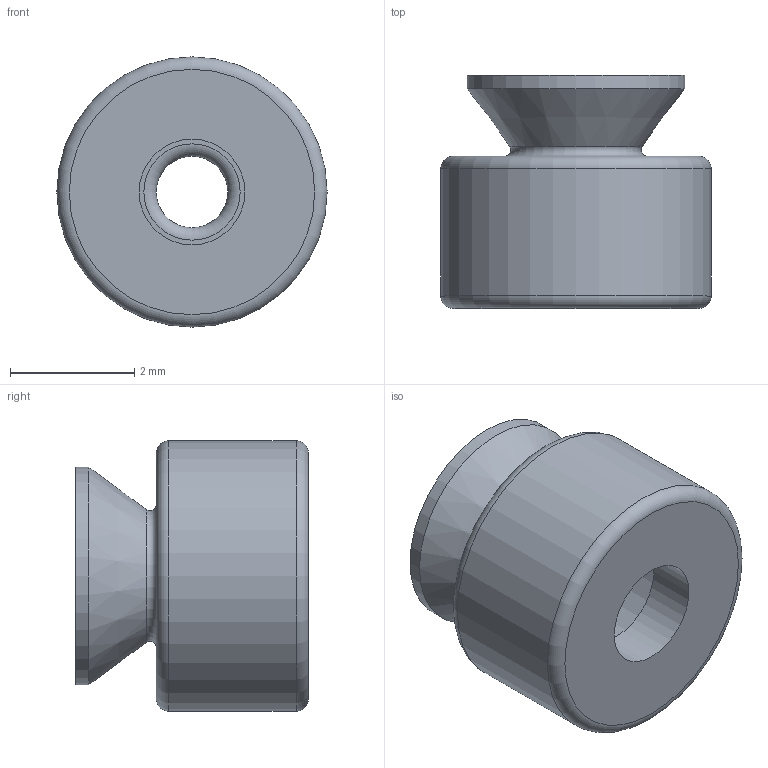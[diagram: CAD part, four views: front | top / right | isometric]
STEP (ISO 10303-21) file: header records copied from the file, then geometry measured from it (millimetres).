
FILE_DESCRIPTION (( 'STEP AP214' ), '1' );
FILE_NAME ('10F.003.001.01.STEP', '2025-10-16T17:01:26', ( '' ), ( '' ), 'SwSTEP 2.0', 'SolidWorks 2025', '' );
FILE_SCHEMA (( 'AUTOMOTIVE_DESIGN' ));
Length unit declared in the file: millimetre
Products named in the file (1): 10F.003.001.01
Bounding box: 4.35 x 3.75 x 4.35 mm (x, y, z)
Volume: 28.3 mm3; surface area: 113.7 mm2
Topology: 1 solids, 1 shells, 17 faces, 29 edges, 17 vertices
Faces by surface type: cylinder 5, torus 5, plane 5, cone 2
Full cylindrical faces by diameter (mm): 1.15 x1, 1.7 x1, 3.35 x1, 3.5 x1, 4.35 x1
Entity records: 371 total; most frequent: DIRECTION 70, CARTESIAN_POINT 52, AXIS2_PLACEMENT_3D 35, EDGE_LOOP 34, ORIENTED_EDGE 34, FACE_OUTER_BOUND 27, EDGE_CURVE 17, CIRCLE 17
